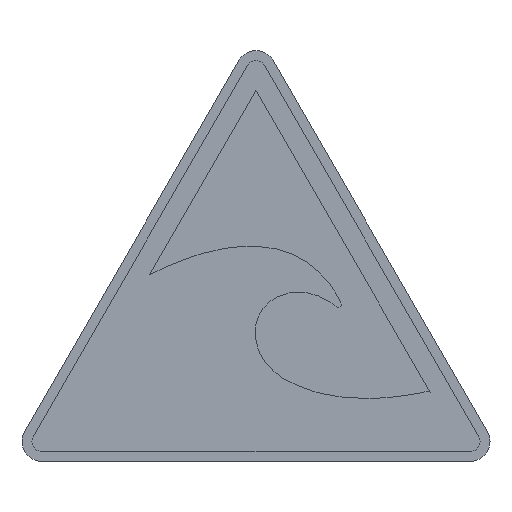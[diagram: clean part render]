
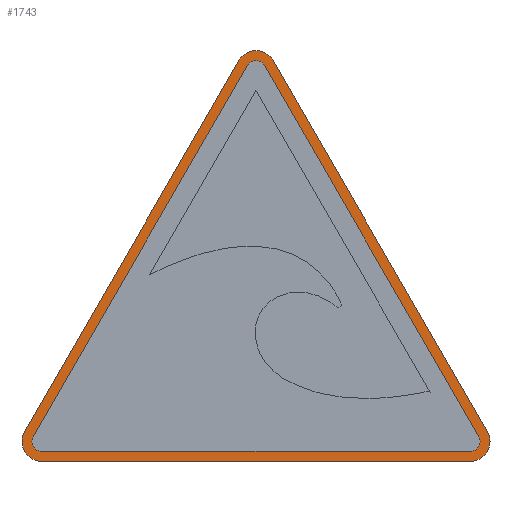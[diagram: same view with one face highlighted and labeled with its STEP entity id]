
A CAD part, top view. The second image highlights one B-rep face of the part: STEP entity #1743.
In plain terms, the highlighted planar face has unit normal (0, 0, 1).
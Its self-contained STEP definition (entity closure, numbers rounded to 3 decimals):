
#12 = EDGE_CURVE ( 'NONE', #357, #1942, #2085, .T. ) ;
#16 = DIRECTION ( 'NONE',  ( -0.5, -0.866, 0. ) ) ;
#22 = VECTOR ( 'NONE', #1640, 1000. ) ;
#87 = EDGE_CURVE ( 'NONE', #1247, #143, #1521, .T. ) ;
#101 = EDGE_CURVE ( 'NONE', #1188, #473, #363, .T. ) ;
#143 = VERTEX_POINT ( 'NONE', #1710 ) ;
#157 = LINE ( 'NONE', #1212, #22 ) ;
#196 = DIRECTION ( 'NONE',  ( 1., 0., 0. ) ) ;
#224 = LINE ( 'NONE', #954, #2172 ) ;
#232 = DIRECTION ( 'NONE',  ( 1., 0., 0. ) ) ;
#235 = VERTEX_POINT ( 'NONE', #415 ) ;
#247 = DIRECTION ( 'NONE',  ( -0.5, 0.866, 0. ) ) ;
#268 = VERTEX_POINT ( 'NONE', #665 ) ;
#273 = CARTESIAN_POINT ( 'NONE',  ( 0., 39.301, 0.2 ) ) ;
#308 = VECTOR ( 'NONE', #247, 1000. ) ;
#318 = CARTESIAN_POINT ( 'NONE',  ( -22.536, 2., 0.2 ) ) ;
#357 = VERTEX_POINT ( 'NONE', #318 ) ;
#363 = CIRCLE ( 'NONE', #940, 1. ) ;
#374 = CIRCLE ( 'NONE', #1433, 2. ) ;
#412 = EDGE_LOOP ( 'NONE', ( #566, #1116, #1647, #1750, #2380, #1759, #2053 ) ) ;
#415 = CARTESIAN_POINT ( 'NONE',  ( 21.536, 0., 0.2 ) ) ;
#420 = DIRECTION ( 'NONE',  ( 0., 0., 1. ) ) ;
#428 = DIRECTION ( 'NONE',  ( -0.5, -0.866, 0. ) ) ;
#433 = LINE ( 'NONE', #1922, #308 ) ;
#443 = CARTESIAN_POINT ( 'NONE',  ( 0., 39.301, 0.2 ) ) ;
#462 = PLANE ( 'NONE',  #794 ) ;
#466 = EDGE_CURVE ( 'NONE', #1928, #1721, #649, .T. ) ;
#473 = VERTEX_POINT ( 'NONE', #1823 ) ;
#539 = CARTESIAN_POINT ( 'NONE',  ( -21.536, 1., 0.2 ) ) ;
#566 = ORIENTED_EDGE ( 'NONE', *, *, #2226, .T. ) ;
#571 = ORIENTED_EDGE ( 'NONE', *, *, #1127, .F. ) ;
#628 = CARTESIAN_POINT ( 'NONE',  ( 1.732, 40.301, 0.2 ) ) ;
#649 = CIRCLE ( 'NONE', #1397, 2. ) ;
#653 = CARTESIAN_POINT ( 'NONE',  ( 21.536, 1., 0.2 ) ) ;
#665 = CARTESIAN_POINT ( 'NONE',  ( -22.402, 2.5, 0.2 ) ) ;
#691 = DIRECTION ( 'NONE',  ( 1., 0., 0. ) ) ;
#703 = DIRECTION ( 'NONE',  ( -1., 0., 0. ) ) ;
#727 = ORIENTED_EDGE ( 'NONE', *, *, #2201, .F. ) ;
#737 = EDGE_CURVE ( 'NONE', #268, #357, #2299, .T. ) ;
#783 = DIRECTION ( 'NONE',  ( 1., 0., 0. ) ) ;
#794 = AXIS2_PLACEMENT_3D ( 'NONE', #797, #420, #2282 ) ;
#797 = CARTESIAN_POINT ( 'NONE',  ( 0., 39.301, 0.2 ) ) ;
#841 = DIRECTION ( 'NONE',  ( 1., 0., 0. ) ) ;
#875 = CIRCLE ( 'NONE', #2235, 1. ) ;
#889 = VERTEX_POINT ( 'NONE', #2055 ) ;
#895 = VECTOR ( 'NONE', #1380, 1000. ) ;
#904 = CARTESIAN_POINT ( 'NONE',  ( -23.536, 2., 0.2 ) ) ;
#910 = DIRECTION ( 'NONE',  ( 0., 0., 1. ) ) ;
#940 = AXIS2_PLACEMENT_3D ( 'NONE', #1170, #2063, #232 ) ;
#946 = EDGE_CURVE ( 'NONE', #1848, #268, #1850, .T. ) ;
#954 = CARTESIAN_POINT ( 'NONE',  ( -21.536, 1., 0.2 ) ) ;
#967 = CARTESIAN_POINT ( 'NONE',  ( -21.536, 0., 0.2 ) ) ;
#986 = CARTESIAN_POINT ( 'NONE',  ( -21.536, 2., 0.2 ) ) ;
#1010 = DIRECTION ( 'NONE',  ( 0., 0., 1. ) ) ;
#1085 = EDGE_CURVE ( 'NONE', #1721, #235, #2264, .T. ) ;
#1091 = ORIENTED_EDGE ( 'NONE', *, *, #101, .F. ) ;
#1114 = CARTESIAN_POINT ( 'NONE',  ( -21.536, 2., 0.2 ) ) ;
#1116 = ORIENTED_EDGE ( 'NONE', *, *, #87, .T. ) ;
#1127 = EDGE_CURVE ( 'NONE', #1962, #1848, #875, .T. ) ;
#1136 = AXIS2_PLACEMENT_3D ( 'NONE', #1114, #910, #196 ) ;
#1158 = DIRECTION ( 'NONE',  ( 0., 0., 1. ) ) ;
#1169 = EDGE_CURVE ( 'NONE', #143, #1928, #374, .T. ) ;
#1170 = CARTESIAN_POINT ( 'NONE',  ( 21.536, 2., 0.2 ) ) ;
#1188 = VERTEX_POINT ( 'NONE', #653 ) ;
#1202 = VECTOR ( 'NONE', #16, 1000. ) ;
#1212 = CARTESIAN_POINT ( 'NONE',  ( 23.268, 3., 0.2 ) ) ;
#1214 = ORIENTED_EDGE ( 'NONE', *, *, #737, .F. ) ;
#1217 = CARTESIAN_POINT ( 'NONE',  ( -1.732, 40.301, 0.2 ) ) ;
#1247 = VERTEX_POINT ( 'NONE', #1217 ) ;
#1254 = DIRECTION ( 'NONE',  ( 0., 0., 1. ) ) ;
#1267 = CARTESIAN_POINT ( 'NONE',  ( -21.536, 2., 0.2 ) ) ;
#1288 = EDGE_CURVE ( 'NONE', #235, #889, #1739, .T. ) ;
#1345 = AXIS2_PLACEMENT_3D ( 'NONE', #1828, #1601, #841 ) ;
#1347 = FACE_OUTER_BOUND ( 'NONE', #412, .T. ) ;
#1380 = DIRECTION ( 'NONE',  ( 1., 0., 0. ) ) ;
#1397 = AXIS2_PLACEMENT_3D ( 'NONE', #1267, #1254, #703 ) ;
#1408 = DIRECTION ( 'NONE',  ( 0., 0., 1. ) ) ;
#1417 = VECTOR ( 'NONE', #428, 1000. ) ;
#1433 = AXIS2_PLACEMENT_3D ( 'NONE', #986, #1408, #2158 ) ;
#1456 = CIRCLE ( 'NONE', #2146, 2. ) ;
#1472 = AXIS2_PLACEMENT_3D ( 'NONE', #2179, #2167, #691 ) ;
#1476 = VERTEX_POINT ( 'NONE', #628 ) ;
#1514 = ORIENTED_EDGE ( 'NONE', *, *, #2054, .F. ) ;
#1521 = LINE ( 'NONE', #2101, #1417 ) ;
#1527 = EDGE_CURVE ( 'NONE', #889, #1476, #157, .T. ) ;
#1544 = CARTESIAN_POINT ( 'NONE',  ( -21.536, 0., 0.2 ) ) ;
#1558 = DIRECTION ( 'NONE',  ( 1., 0., 0. ) ) ;
#1559 = ORIENTED_EDGE ( 'NONE', *, *, #946, .F. ) ;
#1601 = DIRECTION ( 'NONE',  ( 0., 0., 1. ) ) ;
#1640 = DIRECTION ( 'NONE',  ( -0.5, 0.866, 0. ) ) ;
#1647 = ORIENTED_EDGE ( 'NONE', *, *, #1169, .T. ) ;
#1684 = CARTESIAN_POINT ( 'NONE',  ( 0.866, 39.801, 0.2 ) ) ;
#1710 = CARTESIAN_POINT ( 'NONE',  ( -23.268, 3., 0.2 ) ) ;
#1721 = VERTEX_POINT ( 'NONE', #967 ) ;
#1739 = CIRCLE ( 'NONE', #1345, 2. ) ;
#1743 = ADVANCED_FACE ( 'NONE', ( #1347, #2095 ), #462, .T. ) ;
#1750 = ORIENTED_EDGE ( 'NONE', *, *, #466, .T. ) ;
#1759 = ORIENTED_EDGE ( 'NONE', *, *, #1288, .T. ) ;
#1763 = DIRECTION ( 'NONE',  ( 1., 0., 0. ) ) ;
#1823 = CARTESIAN_POINT ( 'NONE',  ( 22.402, 2.5, 0.2 ) ) ;
#1828 = CARTESIAN_POINT ( 'NONE',  ( 21.536, 2., 0.2 ) ) ;
#1841 = CARTESIAN_POINT ( 'NONE',  ( -0.866, 39.801, 0.2 ) ) ;
#1848 = VERTEX_POINT ( 'NONE', #2150 ) ;
#1850 = LINE ( 'NONE', #1841, #1202 ) ;
#1922 = CARTESIAN_POINT ( 'NONE',  ( 22.402, 2.5, 0.2 ) ) ;
#1928 = VERTEX_POINT ( 'NONE', #904 ) ;
#1942 = VERTEX_POINT ( 'NONE', #539 ) ;
#1962 = VERTEX_POINT ( 'NONE', #1684 ) ;
#1992 = EDGE_LOOP ( 'NONE', ( #1559, #571, #727, #1091, #1514, #2371, #1214 ) ) ;
#2053 = ORIENTED_EDGE ( 'NONE', *, *, #1527, .T. ) ;
#2054 = EDGE_CURVE ( 'NONE', #1942, #1188, #224, .T. ) ;
#2055 = CARTESIAN_POINT ( 'NONE',  ( 23.268, 3., 0.2 ) ) ;
#2063 = DIRECTION ( 'NONE',  ( 0., 0., 1. ) ) ;
#2085 = CIRCLE ( 'NONE', #1472, 1. ) ;
#2095 = FACE_BOUND ( 'NONE', #1992, .T. ) ;
#2101 = CARTESIAN_POINT ( 'NONE',  ( -1.732, 40.301, 0.2 ) ) ;
#2146 = AXIS2_PLACEMENT_3D ( 'NONE', #273, #1010, #1763 ) ;
#2150 = CARTESIAN_POINT ( 'NONE',  ( -0.866, 39.801, 0.2 ) ) ;
#2158 = DIRECTION ( 'NONE',  ( -1., 0., 0. ) ) ;
#2167 = DIRECTION ( 'NONE',  ( 0., 0., 1. ) ) ;
#2172 = VECTOR ( 'NONE', #783, 1000. ) ;
#2179 = CARTESIAN_POINT ( 'NONE',  ( -21.536, 2., 0.2 ) ) ;
#2201 = EDGE_CURVE ( 'NONE', #473, #1962, #433, .T. ) ;
#2226 = EDGE_CURVE ( 'NONE', #1476, #1247, #1456, .T. ) ;
#2235 = AXIS2_PLACEMENT_3D ( 'NONE', #443, #1158, #1558 ) ;
#2264 = LINE ( 'NONE', #1544, #895 ) ;
#2282 = DIRECTION ( 'NONE',  ( 1., 0., 0. ) ) ;
#2299 = CIRCLE ( 'NONE', #1136, 1. ) ;
#2371 = ORIENTED_EDGE ( 'NONE', *, *, #12, .F. ) ;
#2380 = ORIENTED_EDGE ( 'NONE', *, *, #1085, .T. ) ;
